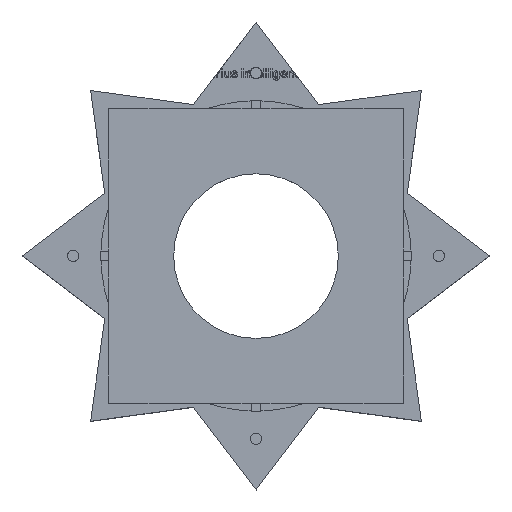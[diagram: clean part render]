
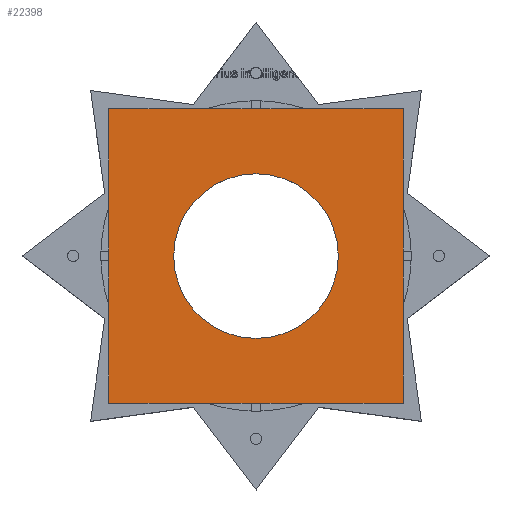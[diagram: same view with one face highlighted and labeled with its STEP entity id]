
A CAD part, top view. The second image highlights one B-rep face of the part: STEP entity #22398.
In plain terms, the highlighted planar face has unit normal (0, 0, 1).
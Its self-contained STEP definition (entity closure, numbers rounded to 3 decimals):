
#819 = CYLINDRICAL_SURFACE('',#820,44.);
#820 = AXIS2_PLACEMENT_3D('',#821,#822,#823);
#821 = CARTESIAN_POINT('',(0.,0.,0.));
#822 = DIRECTION('',(0.,0.,-1.));
#823 = DIRECTION('',(1.,0.,0.));
#1226 = PLANE('',#1227);
#1227 = AXIS2_PLACEMENT_3D('',#1228,#1229,#1230);
#1228 = CARTESIAN_POINT('',(-78.75,-78.75,4.));
#1229 = DIRECTION('',(0.,1.,0.));
#1230 = DIRECTION('',(1.,0.,0.));
#5460 = PLANE('',#5461);
#5461 = AXIS2_PLACEMENT_3D('',#5462,#5463,#5464);
#5462 = CARTESIAN_POINT('',(78.75,78.75,4.));
#5463 = DIRECTION('',(0.,-1.,0.));
#5464 = DIRECTION('',(-1.,0.,0.));
#5486 = PLANE('',#5487);
#5487 = AXIS2_PLACEMENT_3D('',#5488,#5489,#5490);
#5488 = CARTESIAN_POINT('',(78.75,-78.75,4.));
#5489 = DIRECTION('',(-1.,0.,0.));
#5490 = DIRECTION('',(0.,1.,0.));
#5875 = PLANE('',#5876);
#5876 = AXIS2_PLACEMENT_3D('',#5877,#5878,#5879);
#5877 = CARTESIAN_POINT('',(-78.75,78.75,4.));
#5878 = DIRECTION('',(1.,0.,-0.));
#5879 = DIRECTION('',(0.,-1.,0.));
#9517 = VERTEX_POINT('',#9518);
#9518 = CARTESIAN_POINT('',(44.,0.,4.));
#9539 = EDGE_CURVE('',#9517,#9517,#9540,.T.);
#9540 = SURFACE_CURVE('',#9541,(#9546,#9553),.PCURVE_S1.);
#9541 = CIRCLE('',#9542,44.);
#9542 = AXIS2_PLACEMENT_3D('',#9543,#9544,#9545);
#9543 = CARTESIAN_POINT('',(0.,0.,4.));
#9544 = DIRECTION('',(0.,0.,-1.));
#9545 = DIRECTION('',(1.,0.,0.));
#9546 = PCURVE('',#819,#9547);
#9547 = DEFINITIONAL_REPRESENTATION('',(#9548),#9552);
#9548 = LINE('',#9549,#9550);
#9549 = CARTESIAN_POINT('',(0.,-4.));
#9550 = VECTOR('',#9551,1.);
#9551 = DIRECTION('',(1.,0.));
#9552 = ( GEOMETRIC_REPRESENTATION_CONTEXT(2) 
PARAMETRIC_REPRESENTATION_CONTEXT() REPRESENTATION_CONTEXT('2D SPACE',''
  ) );
#9553 = PCURVE('',#9554,#9559);
#9554 = PLANE('',#9555);
#9555 = AXIS2_PLACEMENT_3D('',#9556,#9557,#9558);
#9556 = CARTESIAN_POINT('',(0.,0.,4.));
#9557 = DIRECTION('',(0.,0.,1.));
#9558 = DIRECTION('',(1.,0.,-0.));
#9559 = DEFINITIONAL_REPRESENTATION('',(#9560),#9568);
#9560 = ( BOUNDED_CURVE() B_SPLINE_CURVE(2,(#9561,#9562,#9563,#9564,
#9565,#9566,#9567),.UNSPECIFIED.,.T.,.F.) B_SPLINE_CURVE_WITH_KNOTS((1,2
    ,2,2,2,1),(-2.094,0.,2.094,4.189,
6.283,8.378),.UNSPECIFIED.) CURVE() 
GEOMETRIC_REPRESENTATION_ITEM() RATIONAL_B_SPLINE_CURVE((1.,0.5,1.,0.5,
1.,0.5,1.)) REPRESENTATION_ITEM('') );
#9561 = CARTESIAN_POINT('',(44.,0.));
#9562 = CARTESIAN_POINT('',(44.,-76.21));
#9563 = CARTESIAN_POINT('',(-22.,-38.105));
#9564 = CARTESIAN_POINT('',(-88.,0.));
#9565 = CARTESIAN_POINT('',(-22.,38.105));
#9566 = CARTESIAN_POINT('',(44.,76.21));
#9567 = CARTESIAN_POINT('',(44.,0.));
#9568 = ( GEOMETRIC_REPRESENTATION_CONTEXT(2) 
PARAMETRIC_REPRESENTATION_CONTEXT() REPRESENTATION_CONTEXT('2D SPACE',''
  ) );
#10029 = EDGE_CURVE('',#10030,#10032,#10034,.T.);
#10030 = VERTEX_POINT('',#10031);
#10031 = CARTESIAN_POINT('',(-78.75,-78.75,4.));
#10032 = VERTEX_POINT('',#10033);
#10033 = CARTESIAN_POINT('',(78.75,-78.75,4.));
#10034 = SURFACE_CURVE('',#10035,(#10039,#10046),.PCURVE_S1.);
#10035 = LINE('',#10036,#10037);
#10036 = CARTESIAN_POINT('',(-78.75,-78.75,4.));
#10037 = VECTOR('',#10038,1.);
#10038 = DIRECTION('',(1.,0.,0.));
#10039 = PCURVE('',#1226,#10040);
#10040 = DEFINITIONAL_REPRESENTATION('',(#10041),#10045);
#10041 = LINE('',#10042,#10043);
#10042 = CARTESIAN_POINT('',(0.,0.));
#10043 = VECTOR('',#10044,1.);
#10044 = DIRECTION('',(1.,0.));
#10045 = ( GEOMETRIC_REPRESENTATION_CONTEXT(2) 
PARAMETRIC_REPRESENTATION_CONTEXT() REPRESENTATION_CONTEXT('2D SPACE',''
  ) );
#10046 = PCURVE('',#9554,#10047);
#10047 = DEFINITIONAL_REPRESENTATION('',(#10048),#10052);
#10048 = LINE('',#10049,#10050);
#10049 = CARTESIAN_POINT('',(-78.75,-78.75));
#10050 = VECTOR('',#10051,1.);
#10051 = DIRECTION('',(1.,0.));
#10052 = ( GEOMETRIC_REPRESENTATION_CONTEXT(2) 
PARAMETRIC_REPRESENTATION_CONTEXT() REPRESENTATION_CONTEXT('2D SPACE',''
  ) );
#16870 = EDGE_CURVE('',#16871,#16873,#16875,.T.);
#16871 = VERTEX_POINT('',#16872);
#16872 = CARTESIAN_POINT('',(78.75,78.75,4.));
#16873 = VERTEX_POINT('',#16874);
#16874 = CARTESIAN_POINT('',(-78.75,78.75,4.));
#16875 = SURFACE_CURVE('',#16876,(#16880,#16887),.PCURVE_S1.);
#16876 = LINE('',#16877,#16878);
#16877 = CARTESIAN_POINT('',(78.75,78.75,4.));
#16878 = VECTOR('',#16879,1.);
#16879 = DIRECTION('',(-1.,0.,0.));
#16880 = PCURVE('',#5460,#16881);
#16881 = DEFINITIONAL_REPRESENTATION('',(#16882),#16886);
#16882 = LINE('',#16883,#16884);
#16883 = CARTESIAN_POINT('',(0.,-0.));
#16884 = VECTOR('',#16885,1.);
#16885 = DIRECTION('',(1.,0.));
#16886 = ( GEOMETRIC_REPRESENTATION_CONTEXT(2) 
PARAMETRIC_REPRESENTATION_CONTEXT() REPRESENTATION_CONTEXT('2D SPACE',''
  ) );
#16887 = PCURVE('',#9554,#16888);
#16888 = DEFINITIONAL_REPRESENTATION('',(#16889),#16893);
#16889 = LINE('',#16890,#16891);
#16890 = CARTESIAN_POINT('',(78.75,78.75));
#16891 = VECTOR('',#16892,1.);
#16892 = DIRECTION('',(-1.,0.));
#16893 = ( GEOMETRIC_REPRESENTATION_CONTEXT(2) 
PARAMETRIC_REPRESENTATION_CONTEXT() REPRESENTATION_CONTEXT('2D SPACE',''
  ) );
#17099 = EDGE_CURVE('',#10032,#16871,#17100,.T.);
#17100 = SURFACE_CURVE('',#17101,(#17105,#17112),.PCURVE_S1.);
#17101 = LINE('',#17102,#17103);
#17102 = CARTESIAN_POINT('',(78.75,-78.75,4.));
#17103 = VECTOR('',#17104,1.);
#17104 = DIRECTION('',(0.,1.,0.));
#17105 = PCURVE('',#5486,#17106);
#17106 = DEFINITIONAL_REPRESENTATION('',(#17107),#17111);
#17107 = LINE('',#17108,#17109);
#17108 = CARTESIAN_POINT('',(0.,0.));
#17109 = VECTOR('',#17110,1.);
#17110 = DIRECTION('',(1.,0.));
#17111 = ( GEOMETRIC_REPRESENTATION_CONTEXT(2) 
PARAMETRIC_REPRESENTATION_CONTEXT() REPRESENTATION_CONTEXT('2D SPACE',''
  ) );
#17112 = PCURVE('',#9554,#17113);
#17113 = DEFINITIONAL_REPRESENTATION('',(#17114),#17118);
#17114 = LINE('',#17115,#17116);
#17115 = CARTESIAN_POINT('',(78.75,-78.75));
#17116 = VECTOR('',#17117,1.);
#17117 = DIRECTION('',(0.,1.));
#17118 = ( GEOMETRIC_REPRESENTATION_CONTEXT(2) 
PARAMETRIC_REPRESENTATION_CONTEXT() REPRESENTATION_CONTEXT('2D SPACE',''
  ) );
#17548 = EDGE_CURVE('',#16873,#10030,#17549,.T.);
#17549 = SURFACE_CURVE('',#17550,(#17554,#17561),.PCURVE_S1.);
#17550 = LINE('',#17551,#17552);
#17551 = CARTESIAN_POINT('',(-78.75,78.75,4.));
#17552 = VECTOR('',#17553,1.);
#17553 = DIRECTION('',(0.,-1.,0.));
#17554 = PCURVE('',#5875,#17555);
#17555 = DEFINITIONAL_REPRESENTATION('',(#17556),#17560);
#17556 = LINE('',#17557,#17558);
#17557 = CARTESIAN_POINT('',(0.,0.));
#17558 = VECTOR('',#17559,1.);
#17559 = DIRECTION('',(1.,0.));
#17560 = ( GEOMETRIC_REPRESENTATION_CONTEXT(2) 
PARAMETRIC_REPRESENTATION_CONTEXT() REPRESENTATION_CONTEXT('2D SPACE',''
  ) );
#17561 = PCURVE('',#9554,#17562);
#17562 = DEFINITIONAL_REPRESENTATION('',(#17563),#17567);
#17563 = LINE('',#17564,#17565);
#17564 = CARTESIAN_POINT('',(-78.75,78.75));
#17565 = VECTOR('',#17566,1.);
#17566 = DIRECTION('',(0.,-1.));
#17567 = ( GEOMETRIC_REPRESENTATION_CONTEXT(2) 
PARAMETRIC_REPRESENTATION_CONTEXT() REPRESENTATION_CONTEXT('2D SPACE',''
  ) );
#22398 = ADVANCED_FACE('',(#22399,#22405),#9554,.T.);
#22399 = FACE_BOUND('',#22400,.T.);
#22400 = EDGE_LOOP('',(#22401,#22402,#22403,#22404));
#22401 = ORIENTED_EDGE('',*,*,#10029,.T.);
#22402 = ORIENTED_EDGE('',*,*,#17099,.T.);
#22403 = ORIENTED_EDGE('',*,*,#16870,.T.);
#22404 = ORIENTED_EDGE('',*,*,#17548,.T.);
#22405 = FACE_BOUND('',#22406,.T.);
#22406 = EDGE_LOOP('',(#22407));
#22407 = ORIENTED_EDGE('',*,*,#9539,.T.);
